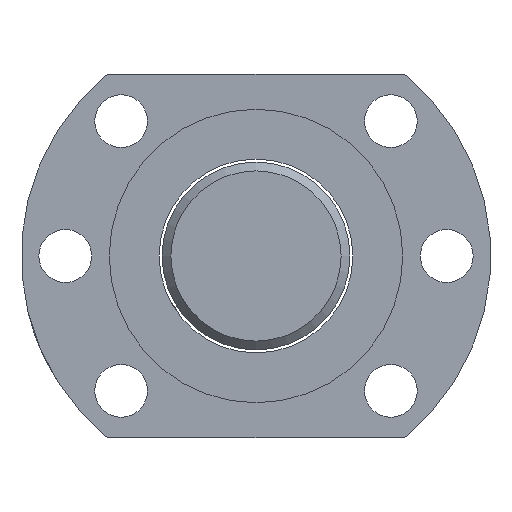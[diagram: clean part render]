
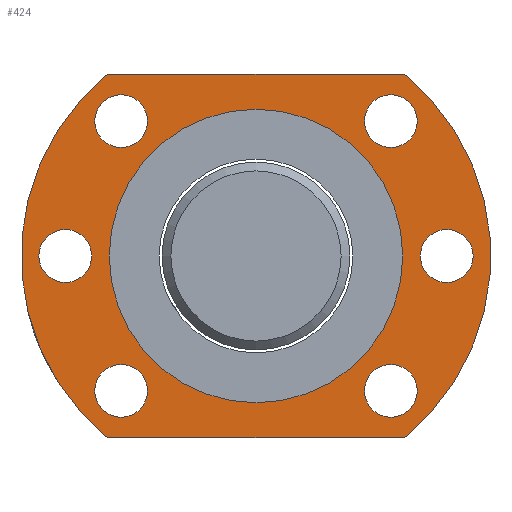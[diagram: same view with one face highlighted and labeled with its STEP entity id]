
A CAD part, left-side view. The second image highlights one B-rep face of the part: STEP entity #424.
In plain terms, the highlighted planar face has unit normal (-1, 0, 0).
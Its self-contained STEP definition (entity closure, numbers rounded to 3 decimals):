
#5 = DIRECTION ( 'NONE',  ( -1., 0., 0. ) ) ;
#22 = CARTESIAN_POINT ( 'NONE',  ( -57.175, -25.762, -26.856 ) ) ;
#25 = CIRCLE ( 'NONE', #97, 4.5 ) ;
#35 = VERTEX_POINT ( 'NONE', #471 ) ;
#55 = FACE_BOUND ( 'NONE', #437, .T. ) ;
#57 = CARTESIAN_POINT ( 'NONE',  ( -57.175, -23.464, 27.125 ) ) ;
#58 = FACE_OUTER_BOUND ( 'NONE', #351, .T. ) ;
#63 = ORIENTED_EDGE ( 'NONE', *, *, #376, .T. ) ;
#66 = CIRCLE ( 'NONE', #497, 4.5 ) ;
#71 = CARTESIAN_POINT ( 'NONE',  ( -57.175, -25.762, -22.356 ) ) ;
#74 = EDGE_CURVE ( 'NONE', #954, #954, #405, .T. ) ;
#96 = ORIENTED_EDGE ( 'NONE', *, *, #222, .T. ) ;
#97 = AXIS2_PLACEMENT_3D ( 'NONE', #452, #368, #666 ) ;
#122 = CARTESIAN_POINT ( 'NONE',  ( -57.175, -48.743, -3.875 ) ) ;
#129 = FACE_BOUND ( 'NONE', #857, .T. ) ;
#137 = ORIENTED_EDGE ( 'NONE', *, *, #396, .T. ) ;
#141 = VERTEX_POINT ( 'NONE', #512 ) ;
#154 = LINE ( 'NONE', #612, #819 ) ;
#167 = EDGE_CURVE ( 'NONE', #141, #141, #232, .T. ) ;
#176 = EDGE_CURVE ( 'NONE', #300, #300, #66, .T. ) ;
#180 = EDGE_CURVE ( 'NONE', #318, #802, #826, .T. ) ;
#193 = DIRECTION ( 'NONE',  ( -1., 0., 0. ) ) ;
#199 = DIRECTION ( 'NONE',  ( -1., 0., 0. ) ) ;
#201 = DIRECTION ( 'NONE',  ( 0., 0., 1. ) ) ;
#203 = DIRECTION ( 'NONE',  ( 0., 0., -1. ) ) ;
#214 = CARTESIAN_POINT ( 'NONE',  ( -57.175, -16.243, 0.625 ) ) ;
#217 = CIRCLE ( 'NONE', #890, 25. ) ;
#222 = EDGE_CURVE ( 'NONE', #363, #363, #25, .T. ) ;
#226 = CARTESIAN_POINT ( 'NONE',  ( -57.175, -25.762, 19.106 ) ) ;
#231 = DIRECTION ( 'NONE',  ( 0., 0., 1. ) ) ;
#232 = CIRCLE ( 'NONE', #358, 4.5 ) ;
#269 = ORIENTED_EDGE ( 'NONE', *, *, #592, .T. ) ;
#286 = FACE_BOUND ( 'NONE', #645, .T. ) ;
#300 = VERTEX_POINT ( 'NONE', #71 ) ;
#312 = VECTOR ( 'NONE', #608, 1000. ) ;
#315 = DIRECTION ( 'NONE',  ( 0., 0., 1. ) ) ;
#318 = VERTEX_POINT ( 'NONE', #654 ) ;
#340 = EDGE_LOOP ( 'NONE', ( #955 ) ) ;
#343 = EDGE_LOOP ( 'NONE', ( #419 ) ) ;
#347 = DIRECTION ( 'NONE',  ( 1., 0., 0. ) ) ;
#348 = EDGE_CURVE ( 'NONE', #360, #360, #359, .T. ) ;
#350 = DIRECTION ( 'NONE',  ( -1., 0., 0. ) ) ;
#351 = EDGE_LOOP ( 'NONE', ( #63, #269, #137, #727 ) ) ;
#354 = CARTESIAN_POINT ( 'NONE',  ( -57.175, -71.724, -26.856 ) ) ;
#358 = AXIS2_PLACEMENT_3D ( 'NONE', #226, #903, #231 ) ;
#359 = CIRCLE ( 'NONE', #906, 4.5 ) ;
#360 = VERTEX_POINT ( 'NONE', #807 ) ;
#363 = VERTEX_POINT ( 'NONE', #741 ) ;
#368 = DIRECTION ( 'NONE',  ( 1., 0., 0. ) ) ;
#376 = EDGE_CURVE ( 'NONE', #802, #877, #607, .T. ) ;
#389 = DIRECTION ( 'NONE',  ( 0., -1., 0. ) ) ;
#390 = AXIS2_PLACEMENT_3D ( 'NONE', #644, #350, #203 ) ;
#396 = EDGE_CURVE ( 'NONE', #426, #318, #685, .T. ) ;
#405 = CIRCLE ( 'NONE', #575, 4.5 ) ;
#419 = ORIENTED_EDGE ( 'NONE', *, *, #744, .F. ) ;
#423 = CARTESIAN_POINT ( 'NONE',  ( -57.175, -48.743, -3.875 ) ) ;
#424 = ADVANCED_FACE ( 'NONE', ( #573, #801, #873, #129, #428, #286, #55, #58 ), #636, .T. ) ;
#425 = DIRECTION ( 'NONE',  ( 0., 0., -1. ) ) ;
#426 = VERTEX_POINT ( 'NONE', #559 ) ;
#428 = FACE_BOUND ( 'NONE', #343, .T. ) ;
#434 = AXIS2_PLACEMENT_3D ( 'NONE', #859, #193, #705 ) ;
#437 = EDGE_LOOP ( 'NONE', ( #926 ) ) ;
#452 = CARTESIAN_POINT ( 'NONE',  ( -57.175, -71.724, 19.106 ) ) ;
#471 = CARTESIAN_POINT ( 'NONE',  ( -57.175, -48.743, -28.875 ) ) ;
#482 = EDGE_LOOP ( 'NONE', ( #96 ) ) ;
#497 = AXIS2_PLACEMENT_3D ( 'NONE', #22, #5, #315 ) ;
#500 = DIRECTION ( 'NONE',  ( -1., 0., 0. ) ) ;
#505 = CARTESIAN_POINT ( 'NONE',  ( -57.175, -81.243, 0.625 ) ) ;
#512 = CARTESIAN_POINT ( 'NONE',  ( -57.175, -25.762, 23.606 ) ) ;
#517 = DIRECTION ( 'NONE',  ( 1., 0., 0. ) ) ;
#538 = EDGE_LOOP ( 'NONE', ( #850 ) ) ;
#559 = CARTESIAN_POINT ( 'NONE',  ( -57.175, -74.021, -34.875 ) ) ;
#566 = DIRECTION ( 'NONE',  ( 0., 0., 1. ) ) ;
#573 = FACE_BOUND ( 'NONE', #482, .T. ) ;
#575 = AXIS2_PLACEMENT_3D ( 'NONE', #746, #517, #757 ) ;
#576 = DIRECTION ( 'NONE',  ( -1., 0., 0. ) ) ;
#592 = EDGE_CURVE ( 'NONE', #877, #426, #154, .T. ) ;
#607 = CIRCLE ( 'NONE', #810, 40. ) ;
#608 = DIRECTION ( 'NONE',  ( 0., 1., 0. ) ) ;
#612 = CARTESIAN_POINT ( 'NONE',  ( -57.175, -23.464, -34.875 ) ) ;
#636 = PLANE ( 'NONE',  #657 ) ;
#644 = CARTESIAN_POINT ( 'NONE',  ( -57.175, -48.743, -3.875 ) ) ;
#645 = EDGE_LOOP ( 'NONE', ( #845 ) ) ;
#654 = CARTESIAN_POINT ( 'NONE',  ( -57.175, -74.021, 27.125 ) ) ;
#657 = AXIS2_PLACEMENT_3D ( 'NONE', #122, #199, #566 ) ;
#666 = DIRECTION ( 'NONE',  ( 0., 0., 1. ) ) ;
#685 = CIRCLE ( 'NONE', #390, 40. ) ;
#705 = DIRECTION ( 'NONE',  ( 0., 0., 1. ) ) ;
#719 = ORIENTED_EDGE ( 'NONE', *, *, #167, .F. ) ;
#727 = ORIENTED_EDGE ( 'NONE', *, *, #180, .T. ) ;
#729 = CIRCLE ( 'NONE', #434, 4.5 ) ;
#741 = CARTESIAN_POINT ( 'NONE',  ( -57.175, -71.724, 23.606 ) ) ;
#744 = EDGE_CURVE ( 'NONE', #883, #883, #729, .T. ) ;
#746 = CARTESIAN_POINT ( 'NONE',  ( -57.175, -81.243, -3.875 ) ) ;
#753 = CARTESIAN_POINT ( 'NONE',  ( -57.175, -74.021, 27.125 ) ) ;
#757 = DIRECTION ( 'NONE',  ( 0., 0., 1. ) ) ;
#776 = CARTESIAN_POINT ( 'NONE',  ( -57.175, -23.464, -34.875 ) ) ;
#801 = FACE_BOUND ( 'NONE', #340, .T. ) ;
#802 = VERTEX_POINT ( 'NONE', #57 ) ;
#807 = CARTESIAN_POINT ( 'NONE',  ( -57.175, -71.724, -22.356 ) ) ;
#810 = AXIS2_PLACEMENT_3D ( 'NONE', #423, #500, #425 ) ;
#819 = VECTOR ( 'NONE', #389, 1000. ) ;
#826 = LINE ( 'NONE', #753, #312 ) ;
#838 = CARTESIAN_POINT ( 'NONE',  ( -57.175, -48.743, -3.875 ) ) ;
#845 = ORIENTED_EDGE ( 'NONE', *, *, #872, .F. ) ;
#850 = ORIENTED_EDGE ( 'NONE', *, *, #176, .F. ) ;
#857 = EDGE_LOOP ( 'NONE', ( #719 ) ) ;
#859 = CARTESIAN_POINT ( 'NONE',  ( -57.175, -16.243, -3.875 ) ) ;
#872 = EDGE_CURVE ( 'NONE', #35, #35, #217, .T. ) ;
#873 = FACE_BOUND ( 'NONE', #538, .T. ) ;
#877 = VERTEX_POINT ( 'NONE', #776 ) ;
#883 = VERTEX_POINT ( 'NONE', #214 ) ;
#890 = AXIS2_PLACEMENT_3D ( 'NONE', #838, #576, #941 ) ;
#903 = DIRECTION ( 'NONE',  ( -1., 0., 0. ) ) ;
#906 = AXIS2_PLACEMENT_3D ( 'NONE', #354, #347, #201 ) ;
#926 = ORIENTED_EDGE ( 'NONE', *, *, #74, .T. ) ;
#941 = DIRECTION ( 'NONE',  ( 0., 0., -1. ) ) ;
#954 = VERTEX_POINT ( 'NONE', #505 ) ;
#955 = ORIENTED_EDGE ( 'NONE', *, *, #348, .T. ) ;
